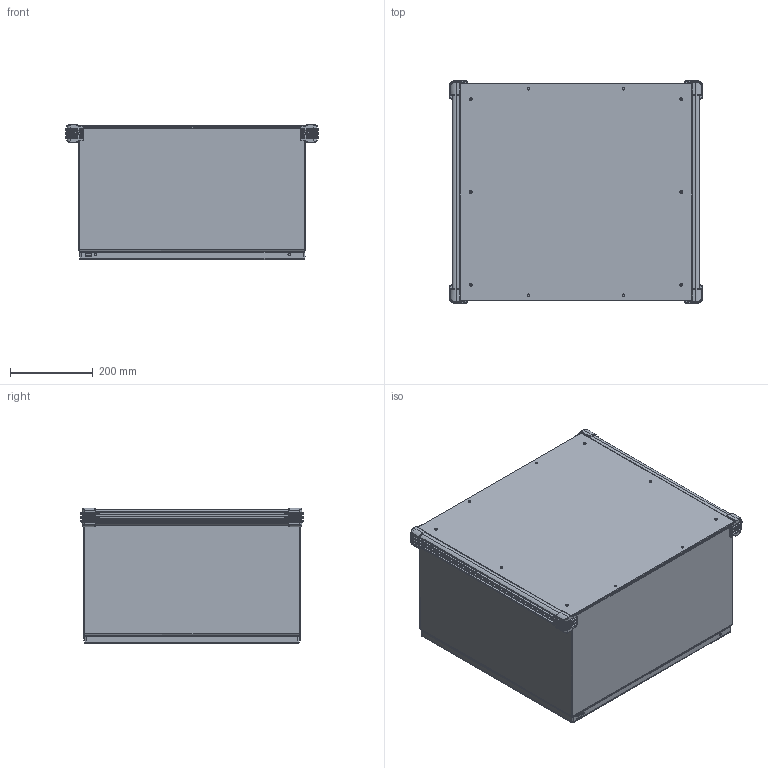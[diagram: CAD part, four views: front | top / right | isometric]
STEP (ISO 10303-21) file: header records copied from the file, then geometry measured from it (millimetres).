
FILE_DESCRIPTION (( 'STEP AP203' ), '1' );
FILE_NAME ('cp525530b.STEP', '2012-06-08T20:09:14', ( 'User' ), ( 'Pentair Inc' ), 'SwSTEP 2.0', 'SolidWorks 2010', '' );
FILE_SCHEMA (( 'CONFIG_CONTROL_DESIGN' ));
Length unit declared in the file: inch
Products named in the file (39): cp525530b; 89061137; 87798768_default; 99401225_Config-Drawing; 87938529_assy; 87938553_fip; 87938505; 87931362_87931362; 99401225; 87938566_87926013; 87921906_After Weld; 64101001; 64201001; 87541994_Installed Height; 87541995; 64202001; 64210001; 64203001; 87927840_87927840; 87932903; 64138001; 89061097; 87789225; 87541671_87541671; 87789177; 87799864; 87789150; 87543027; 89076399; 89076193; 89056623; 87789744_ASSEMBLED; 89061400; 87792578; 87792576; 99416066; 87929507; 87929767; 87929769_Installed on Pin
Assembly tree (78 placements, depth 4):
  cp525530b
    89076399  x2
      89056623
      89076193
    87792578  x6
    99416066  x6
    87789150  x4
    87938529_assy
      87932903  x2
      64138001  x2
      64101001
        64203001
        64202001
        87541994_Installed Height
        64210001
        87927840_87927840
        87541995
        64201001
      87938553_fip
        87931362_87931362  x2
        87921906_After Weld  x4
        99401225
        87938505
        87938566_87926013
    89061137
      99401225_Config-Drawing  x3
      87798768_default
    87543027  x2
    87789177  x2
    87929507  x2
      87929767
      87929769_Installed on Pin
    87789744_ASSEMBLED
      89061400  x2
    87792576  x6
    89061097
      87789225
      87541671_87541671  x10
    87799864
Bounding box: 614.3 x 538.89 x 329.29 mm (x, y, z)
Volume: 3911807 mm3; surface area: 3499235.4 mm2
Topology: 73 solids, 73 shells, 4486 faces, 11297 edges, 6938 vertices
Faces by surface type: plane 1839, cylinder 1483, bspline 444, torus 374, cone 294, sphere 52
Entity records: 72502 total; most frequent: CARTESIAN_POINT 21604, ORIENTED_EDGE 9736, DIRECTION 9261, EDGE_CURVE 4868, AXIS2_PLACEMENT_3D 3409, VERTEX_POINT 3004, LINE 2443, VECTOR 2443
